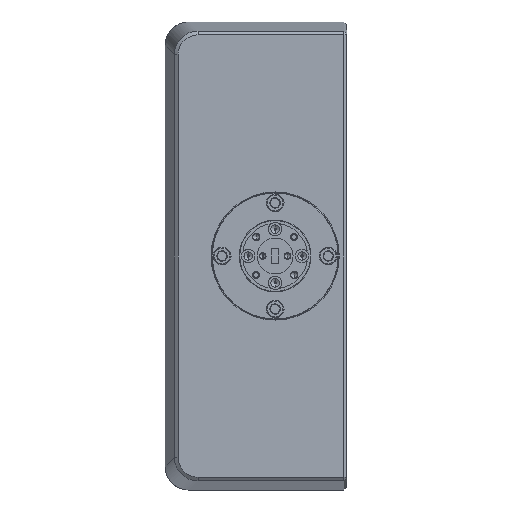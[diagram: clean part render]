
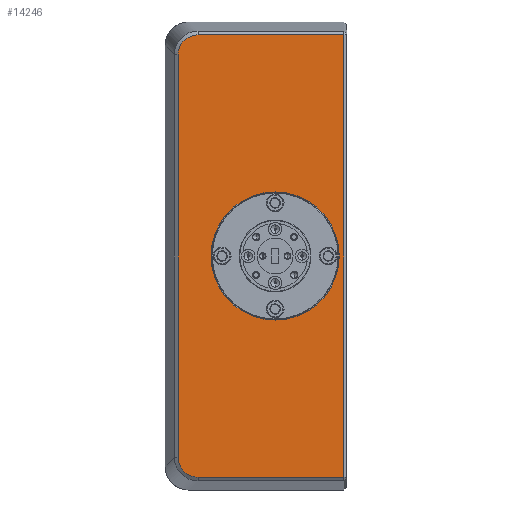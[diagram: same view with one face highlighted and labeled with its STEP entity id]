
A CAD part, left-side view. The second image highlights one B-rep face of the part: STEP entity #14246.
In plain terms, the highlighted planar face has unit normal (-1, 0, 0).
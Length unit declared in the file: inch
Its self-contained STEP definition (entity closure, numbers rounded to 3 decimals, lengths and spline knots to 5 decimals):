
#1027 = DIRECTION ( 'NONE',  ( 0., 0., -1. ) ) ;
#1273 = EDGE_CURVE ( 'NONE', #53265, #31585, #25441, .T. ) ;
#1278 = CARTESIAN_POINT ( 'NONE',  ( -6.94473, 3.10535, 2.28486 ) ) ;
#2180 = DIRECTION ( 'NONE',  ( 0., -1., 0. ) ) ;
#2515 = CARTESIAN_POINT ( 'NONE',  ( -6.94473, 3.01423, -2.31232 ) ) ;
#2829 = CARTESIAN_POINT ( 'NONE',  ( -6.94473, 3.09329, -2.29129 ) ) ;
#3419 = CARTESIAN_POINT ( 'NONE',  ( -6.94473, 3.20803, -2.13082 ) ) ;
#3606 = DIRECTION ( 'NONE',  ( -1., 0., 0. ) ) ;
#5830 = EDGE_CURVE ( 'NONE', #17789, #47673, #36911, .T. ) ;
#5834 = CARTESIAN_POINT ( 'NONE',  ( -6.94473, 3.05495, 2.30563 ) ) ;
#5889 = EDGE_CURVE ( 'NONE', #54383, #17789, #56166, .T. ) ;
#5918 = CIRCLE ( 'NONE', #19620, 0.67 ) ;
#6420 = CIRCLE ( 'NONE', #30830, 0.67 ) ;
#6557 = DIRECTION ( 'NONE',  ( 0., 0., 1. ) ) ;
#7048 = CARTESIAN_POINT ( 'NONE',  ( -6.94473, 3.19874, 2.17101 ) ) ;
#7087 = CARTESIAN_POINT ( 'NONE',  ( -6.94473, 3.19873, -2.17102 ) ) ;
#7795 = ORIENTED_EDGE ( 'NONE', *, *, #10460, .F. ) ;
#8328 = VECTOR ( 'NONE', #60425, 39.37008 ) ;
#8524 = VECTOR ( 'NONE', #1027, 39.37008 ) ;
#10460 = EDGE_CURVE ( 'NONE', #27305, #38272, #5918, .T. ) ;
#11052 = CARTESIAN_POINT ( 'NONE',  ( -6.94473, 3.16667, 2.23117 ) ) ;
#11399 = CARTESIAN_POINT ( 'NONE',  ( -6.94473, 3.02789, -2.31099 ) ) ;
#12197 = EDGE_LOOP ( 'NONE', ( #20204, #7795 ) ) ;
#13471 = CARTESIAN_POINT ( 'NONE',  ( -6.94473, 2.3943, 2.31232 ) ) ;
#13550 = DIRECTION ( 'NONE',  ( 1., 0., 0. ) ) ;
#14246 = ADVANCED_FACE ( 'NONE', ( #55944, #41282 ), #59902, .F. ) ;
#15437 = CARTESIAN_POINT ( 'NONE',  ( -6.94473, 2.1943, 0. ) ) ;
#15634 = CARTESIAN_POINT ( 'NONE',  ( -6.94473, 3.13879, 2.26096 ) ) ;
#15966 = CARTESIAN_POINT ( 'NONE',  ( -6.94473, 3.16667, -2.23117 ) ) ;
#16574 = CARTESIAN_POINT ( 'NONE',  ( -6.94473, 3.18835, -2.19623 ) ) ;
#16890 = CARTESIAN_POINT ( 'NONE',  ( -6.94473, 3.05498, -2.30563 ) ) ;
#17300 = ORIENTED_EDGE ( 'NONE', *, *, #5830, .T. ) ;
#17568 = ORIENTED_EDGE ( 'NONE', *, *, #50578, .T. ) ;
#17789 = VERTEX_POINT ( 'NONE', #56530 ) ;
#19620 = AXIS2_PLACEMENT_3D ( 'NONE', #15437, #51785, #42000 ) ;
#20204 = ORIENTED_EDGE ( 'NONE', *, *, #51951, .F. ) ;
#22062 = CARTESIAN_POINT ( 'NONE',  ( -6.94473, 1.4743, -2.31232 ) ) ;
#22371 = ORIENTED_EDGE ( 'NONE', *, *, #22433, .T. ) ;
#22433 = EDGE_CURVE ( 'NONE', #22566, #54383, #45746, .T. ) ;
#22566 = VERTEX_POINT ( 'NONE', #51561 ) ;
#24495 = CARTESIAN_POINT ( 'NONE',  ( -6.94473, 3.20804, 2.13083 ) ) ;
#24787 = CARTESIAN_POINT ( 'NONE',  ( -6.94473, 3.18192, 2.2083 ) ) ;
#25441 = LINE ( 'NONE', #56610, #8524 ) ;
#25442 = CARTESIAN_POINT ( 'NONE',  ( -6.94473, 3.20938, -2.1034 ) ) ;
#26255 = EDGE_LOOP ( 'NONE', ( #27959, #22371, #31768, #17300, #17568, #42879 ) ) ;
#26663 = CARTESIAN_POINT ( 'NONE',  ( -6.94473, 3.20938, -2.11713 ) ) ;
#26666 = DIRECTION ( 'NONE',  ( 0., 1., 0. ) ) ;
#27305 = VERTEX_POINT ( 'NONE', #42961 ) ;
#27959 = ORIENTED_EDGE ( 'NONE', *, *, #37283, .T. ) ;
#29668 = CARTESIAN_POINT ( 'NONE',  ( -6.94473, 3.01419, 2.31232 ) ) ;
#30830 = AXIS2_PLACEMENT_3D ( 'NONE', #50051, #3606, #55528 ) ;
#31585 = VERTEX_POINT ( 'NONE', #42345 ) ;
#31768 = ORIENTED_EDGE ( 'NONE', *, *, #5889, .T. ) ;
#31840 = CARTESIAN_POINT ( 'NONE',  ( -6.94473, 2.3943, 0. ) ) ;
#33148 = CARTESIAN_POINT ( 'NONE',  ( -6.94473, 3.00046, 2.31232 ) ) ;
#34579 = CARTESIAN_POINT ( 'NONE',  ( -6.94473, 3.13879, -2.26097 ) ) ;
#35201 = CARTESIAN_POINT ( 'NONE',  ( -6.94473, 3.06807, -2.30169 ) ) ;
#36911 = LINE ( 'NONE', #13471, #8328 ) ;
#37283 = EDGE_CURVE ( 'NONE', #31585, #22566, #55042, .T. ) ;
#38272 = VERTEX_POINT ( 'NONE', #54307 ) ;
#38802 = CARTESIAN_POINT ( 'NONE',  ( -6.94473, 3.18834, 2.19624 ) ) ;
#39401 = CARTESIAN_POINT ( 'NONE',  ( -6.94473, 3.12822, 2.26962 ) ) ;
#40069 = CARTESIAN_POINT ( 'NONE',  ( -6.94473, 3.20269, -2.1579 ) ) ;
#40268 = CARTESIAN_POINT ( 'NONE',  ( -6.94473, 3.20938, 2.1034 ) ) ;
#40868 = CARTESIAN_POINT ( 'NONE',  ( -6.94473, 2.3943, -2.31232 ) ) ;
#41282 = FACE_BOUND ( 'NONE', #12197, .T. ) ;
#42000 = DIRECTION ( 'NONE',  ( 0., 0., 1. ) ) ;
#42345 = CARTESIAN_POINT ( 'NONE',  ( -6.94473, 3.20938, -2.1034 ) ) ;
#42879 = ORIENTED_EDGE ( 'NONE', *, *, #1273, .T. ) ;
#42961 = CARTESIAN_POINT ( 'NONE',  ( -6.94473, 2.1943, -0.67 ) ) ;
#43390 = CARTESIAN_POINT ( 'NONE',  ( -6.94473, 3.20938, 2.1034 ) ) ;
#44004 = CARTESIAN_POINT ( 'NONE',  ( -6.94473, 3.02787, 2.31098 ) ) ;
#45746 = LINE ( 'NONE', #40868, #55270 ) ;
#47325 = VECTOR ( 'NONE', #6557, 39.37008 ) ;
#47673 = VERTEX_POINT ( 'NONE', #33148 ) ;
#48265 = CARTESIAN_POINT ( 'NONE',  ( -6.94473, 3.20938, 2.11717 ) ) ;
#48586 = CARTESIAN_POINT ( 'NONE',  ( -6.94473, 3.06808, 2.30168 ) ) ;
#48814 = B_SPLINE_CURVE_WITH_KNOTS ( 'NONE', 3,
 ( #57470, #29668, #44004, #5834, #48586, #52883, #1278, #39401, #15634, #57765, #11052, #24787, #38802, #7048, #52586, #24495, #48265, #43390 ),
 .UNSPECIFIED., .F., .F.,
 ( 4, 2, 2, 2, 2, 2, 2, 2, 4 ),
 ( 0., 0.125, 0.25, 0.375, 0.5, 0.625, 0.75, 0.875, 1. ),
 .UNSPECIFIED. ) ;
#49561 = CARTESIAN_POINT ( 'NONE',  ( -6.94473, 3.15802, -2.24174 ) ) ;
#50051 = CARTESIAN_POINT ( 'NONE',  ( -6.94473, 2.1943, 0. ) ) ;
#50578 = EDGE_CURVE ( 'NONE', #47673, #53265, #48814, .T. ) ;
#51561 = CARTESIAN_POINT ( 'NONE',  ( -6.94473, 3.00046, -2.31232 ) ) ;
#51785 = DIRECTION ( 'NONE',  ( -1., 0., 0. ) ) ;
#51951 = EDGE_CURVE ( 'NONE', #38272, #27305, #6420, .T. ) ;
#52586 = CARTESIAN_POINT ( 'NONE',  ( -6.94473, 3.20268, 2.15793 ) ) ;
#52883 = CARTESIAN_POINT ( 'NONE',  ( -6.94473, 3.09328, 2.2913 ) ) ;
#53226 = CARTESIAN_POINT ( 'NONE',  ( -6.94473, 3.12822, -2.26962 ) ) ;
#53265 = VERTEX_POINT ( 'NONE', #40268 ) ;
#53535 = CARTESIAN_POINT ( 'NONE',  ( -6.94473, 3.10535, -2.28486 ) ) ;
#54152 = CARTESIAN_POINT ( 'NONE',  ( -6.94473, 3.18192, -2.20829 ) ) ;
#54307 = CARTESIAN_POINT ( 'NONE',  ( -6.94473, 2.1943, 0.67 ) ) ;
#54383 = VERTEX_POINT ( 'NONE', #22062 ) ;
#54625 = AXIS2_PLACEMENT_3D ( 'NONE', #31840, #13550, #26666 ) ;
#55042 = B_SPLINE_CURVE_WITH_KNOTS ( 'NONE', 3,
 ( #25442, #26663, #3419, #40069, #7087, #16574, #54152, #15966, #49561, #34579, #53226, #53535, #2829, #35201, #16890, #11399, #2515, #58105 ),
 .UNSPECIFIED., .F., .F.,
 ( 4, 2, 2, 2, 2, 2, 2, 2, 4 ),
 ( 0., 0.125, 0.25, 0.375, 0.5, 0.625, 0.75, 0.875, 1. ),
 .UNSPECIFIED. ) ;
#55270 = VECTOR ( 'NONE', #2180, 39.37008 ) ;
#55528 = DIRECTION ( 'NONE',  ( 0., 0., 1. ) ) ;
#55944 = FACE_OUTER_BOUND ( 'NONE', #26255, .T. ) ;
#56166 = LINE ( 'NONE', #57293, #47325 ) ;
#56530 = CARTESIAN_POINT ( 'NONE',  ( -6.94473, 1.4743, 2.31232 ) ) ;
#56610 = CARTESIAN_POINT ( 'NONE',  ( -6.94473, 3.20938, 0. ) ) ;
#57293 = CARTESIAN_POINT ( 'NONE',  ( -6.94473, 1.4743, 0. ) ) ;
#57470 = CARTESIAN_POINT ( 'NONE',  ( -6.94473, 3.00046, 2.31232 ) ) ;
#57765 = CARTESIAN_POINT ( 'NONE',  ( -6.94473, 3.15802, 2.24174 ) ) ;
#58105 = CARTESIAN_POINT ( 'NONE',  ( -6.94473, 3.00046, -2.31232 ) ) ;
#59902 = PLANE ( 'NONE',  #54625 ) ;
#60425 = DIRECTION ( 'NONE',  ( 0., 1., 0. ) ) ;
